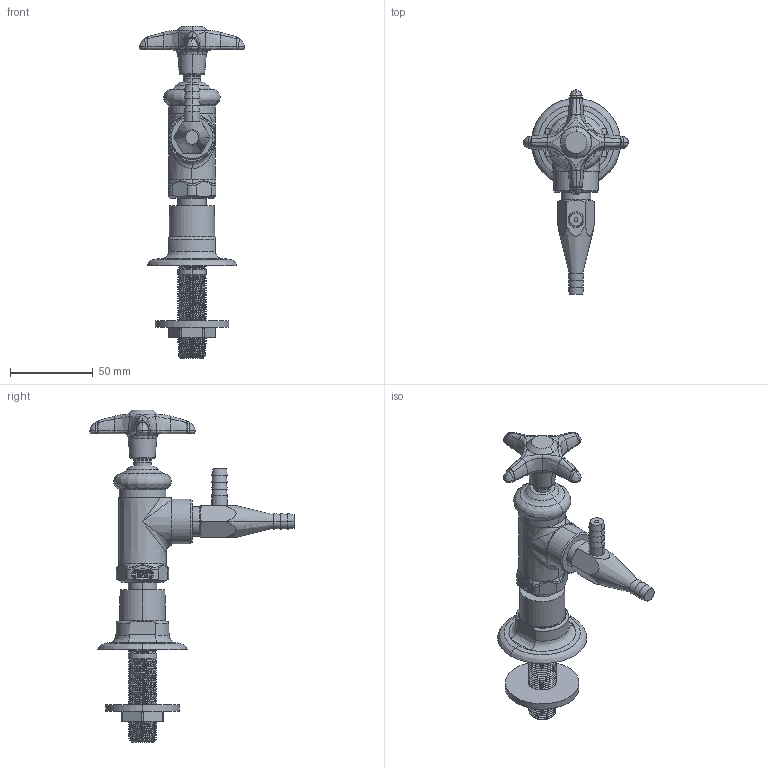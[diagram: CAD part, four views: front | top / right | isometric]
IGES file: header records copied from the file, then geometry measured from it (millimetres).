
Start section:  PTC IGES file: LWV2-C33-55.igs
Global section: file name: LWV2-C33-55.igs; native system: Creo Parametric by PTC Inc.; preprocessor: 2014500; author: usch_engrender; organization: Unknown; date: 20151118.094358; units: inch
Bounding box: 63.42 x 123.15 x 200.32 mm (x, y, z)
Volume: 133486.6 mm3; surface area: 33279.8 mm2
Topology: 1 solids, 4 shells, 569 faces, 1345 edges, 807 vertices
Faces by surface type: bspline 299, revolution 270
